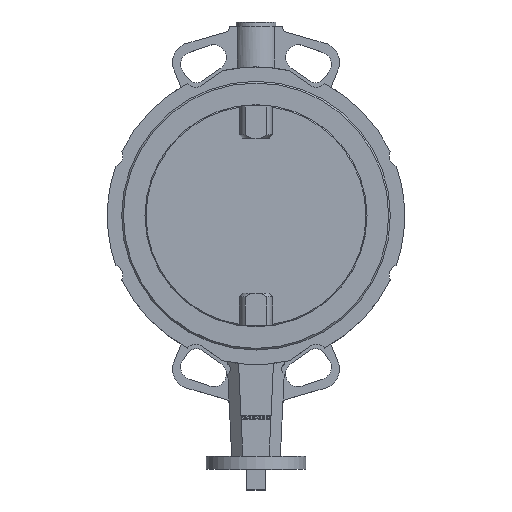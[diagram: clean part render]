
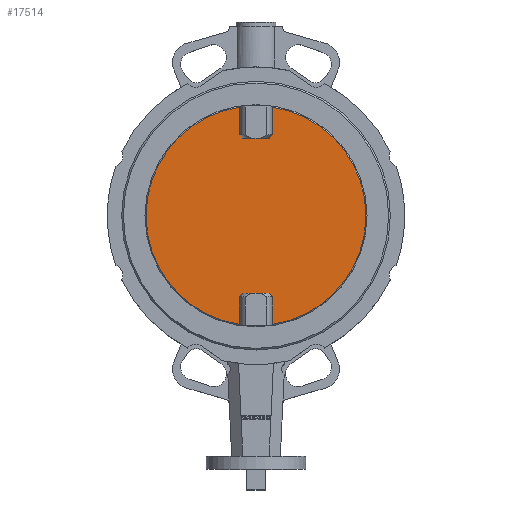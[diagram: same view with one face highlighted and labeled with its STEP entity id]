
A CAD part, top view. The second image highlights one B-rep face of the part: STEP entity #17514.
In plain terms, the highlighted planar face has unit normal (0, 0, 1).
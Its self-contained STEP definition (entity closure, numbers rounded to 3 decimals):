
#16469=CARTESIAN_POINT('',(99.0,0.,32.));
#16470=VERTEX_POINT('',#16469);
#16484=CARTESIAN_POINT('',(-99.0,0.,32.));
#16485=VERTEX_POINT('',#16484);
#16492=CARTESIAN_POINT('',(-14.866,97.877,32.));
#16493=VERTEX_POINT('',#16492);
#16494=CARTESIAN_POINT('',(0.0,0.0,32.0));
#16495=DIRECTION('',(0.0,0.0,-1.0));
#16496=DIRECTION('',(1.0,0.0,0.0));
#16497=AXIS2_PLACEMENT_3D('',#16494,#16495,#16496);
#16498=CIRCLE('',#16497,99.0);
#16499=EDGE_CURVE('',#16485,#16493,#16498,.T.);
#16521=CARTESIAN_POINT('',(14.866,97.877,32.));
#16522=VERTEX_POINT('',#16521);
#16532=CARTESIAN_POINT('',(0.0,0.0,32.0));
#16533=DIRECTION('',(0.0,0.0,-1.0));
#16534=DIRECTION('',(1.0,0.0,0.0));
#16535=AXIS2_PLACEMENT_3D('',#16532,#16533,#16534);
#16536=CIRCLE('',#16535,99.0);
#16537=EDGE_CURVE('',#16522,#16470,#16536,.T.);
#16832=CARTESIAN_POINT('',(-11.832,70.0,32.));
#16833=VERTEX_POINT('',#16832);
#16841=CARTESIAN_POINT('',(11.832,70.0,32.));
#16842=VERTEX_POINT('',#16841);
#16843=CARTESIAN_POINT('',(-11.832,70.0,32.));
#16844=DIRECTION('',(1.0,0.0,0.0));
#16845=VECTOR('',#16844,23.664);
#16846=LINE('',#16843,#16845);
#16847=EDGE_CURVE('',#16833,#16842,#16846,.T.);
#16865=CARTESIAN_POINT('',(-14.866,73.0,32.));
#16866=VERTEX_POINT('',#16865);
#16874=CARTESIAN_POINT('',(-14.866,73.0,32.));
#16875=CARTESIAN_POINT('',(-13.181,71.33,32.));
#16876=CARTESIAN_POINT('',(-11.832,70.0,32.));
#16884=(BOUNDED_CURVE()B_SPLINE_CURVE(2,(#16874,#16875,#16876),.UNSPECIFIED.,.F.,.U.)B_SPLINE_CURVE_WITH_KNOTS((3,3),(0.0,4.267),.UNSPECIFIED.)CURVE()GEOMETRIC_REPRESENTATION_ITEM()RATIONAL_B_SPLINE_CURVE((1.0,1.006,1.0))REPRESENTATION_ITEM(''));
#16885=EDGE_CURVE('',#16866,#16833,#16884,.T.);
#16905=CARTESIAN_POINT('',(-14.866,97.877,32.));
#16906=DIRECTION('',(0.0,-1.0,0.0));
#16907=VECTOR('',#16906,24.877);
#16908=LINE('',#16905,#16907);
#16909=EDGE_CURVE('',#16493,#16866,#16908,.T.);
#16921=CARTESIAN_POINT('',(11.832,-70.0,32.));
#16922=VERTEX_POINT('',#16921);
#16930=CARTESIAN_POINT('',(-11.832,-70.0,32.));
#16931=VERTEX_POINT('',#16930);
#16932=CARTESIAN_POINT('',(11.832,-70.0,32.));
#16933=DIRECTION('',(-1.0,0.0,0.0));
#16934=VECTOR('',#16933,23.664);
#16935=LINE('',#16932,#16934);
#16936=EDGE_CURVE('',#16922,#16931,#16935,.T.);
#16954=CARTESIAN_POINT('',(14.866,-73.0,32.));
#16955=VERTEX_POINT('',#16954);
#16963=CARTESIAN_POINT('',(14.866,-73.0,32.));
#16964=CARTESIAN_POINT('',(13.181,-71.33,32.));
#16965=CARTESIAN_POINT('',(11.832,-70.0,32.));
#16973=(BOUNDED_CURVE()B_SPLINE_CURVE(2,(#16963,#16964,#16965),.UNSPECIFIED.,.F.,.U.)B_SPLINE_CURVE_WITH_KNOTS((3,3),(0.0,4.267),.UNSPECIFIED.)CURVE()GEOMETRIC_REPRESENTATION_ITEM()RATIONAL_B_SPLINE_CURVE((1.0,1.006,1.0))REPRESENTATION_ITEM(''));
#16974=EDGE_CURVE('',#16955,#16922,#16973,.T.);
#17016=CARTESIAN_POINT('',(14.866,-97.877,32.));
#17017=VERTEX_POINT('',#17016);
#17027=CARTESIAN_POINT('',(14.866,-97.877,32.));
#17028=DIRECTION('',(0.0,1.0,0.0));
#17029=VECTOR('',#17028,24.877);
#17030=LINE('',#17027,#17029);
#17031=EDGE_CURVE('',#17017,#16955,#17030,.T.);
#17272=CARTESIAN_POINT('',(0.0,0.0,32.0));
#17273=DIRECTION('',(0.0,0.0,-1.0));
#17274=DIRECTION('',(1.0,0.0,0.0));
#17275=AXIS2_PLACEMENT_3D('',#17272,#17273,#17274);
#17276=CIRCLE('',#17275,99.0);
#17277=EDGE_CURVE('',#16470,#17017,#17276,.T.);
#17289=CARTESIAN_POINT('',(-14.866,-97.877,32.));
#17290=VERTEX_POINT('',#17289);
#17300=CARTESIAN_POINT('',(0.0,0.0,32.0));
#17301=DIRECTION('',(0.0,0.0,-1.0));
#17302=DIRECTION('',(1.0,0.0,0.0));
#17303=AXIS2_PLACEMENT_3D('',#17300,#17301,#17302);
#17304=CIRCLE('',#17303,99.0);
#17305=EDGE_CURVE('',#17290,#16485,#17304,.T.);
#17455=CARTESIAN_POINT('',(0.0,0.0,32.0));
#17456=DIRECTION('',(0.0,0.0,1.0));
#17457=DIRECTION('',(-1.0,0.0,0.0));
#17458=AXIS2_PLACEMENT_3D('',#17455,#17456,#17457);
#17459=PLANE('',#17458);
#17460=CARTESIAN_POINT('',(-14.866,-73.0,32.));
#17461=VERTEX_POINT('',#17460);
#17462=CARTESIAN_POINT('',(-14.866,-73.0,32.));
#17463=DIRECTION('',(0.0,-1.0,0.0));
#17464=VECTOR('',#17463,24.877);
#17465=LINE('',#17462,#17464);
#17466=EDGE_CURVE('',#17461,#17290,#17465,.T.);
#17467=ORIENTED_EDGE('',*,*,#17466,.F.);
#17468=CARTESIAN_POINT('',(-11.832,-70.0,32.));
#17469=CARTESIAN_POINT('',(-13.181,-71.33,32.));
#17470=CARTESIAN_POINT('',(-14.866,-73.0,32.));
#17478=(BOUNDED_CURVE()B_SPLINE_CURVE(2,(#17468,#17469,#17470),.UNSPECIFIED.,.F.,.U.)B_SPLINE_CURVE_WITH_KNOTS((3,3),(0.0,4.267),.UNSPECIFIED.)CURVE()GEOMETRIC_REPRESENTATION_ITEM()RATIONAL_B_SPLINE_CURVE((1.0,1.006,1.0))REPRESENTATION_ITEM(''));
#17479=EDGE_CURVE('',#16931,#17461,#17478,.T.);
#17480=ORIENTED_EDGE('',*,*,#17479,.F.);
#17481=ORIENTED_EDGE('',*,*,#16936,.F.);
#17482=ORIENTED_EDGE('',*,*,#16974,.F.);
#17483=ORIENTED_EDGE('',*,*,#17031,.F.);
#17484=ORIENTED_EDGE('',*,*,#17277,.F.);
#17485=ORIENTED_EDGE('',*,*,#16537,.F.);
#17486=CARTESIAN_POINT('',(14.866,73.0,32.));
#17487=VERTEX_POINT('',#17486);
#17488=CARTESIAN_POINT('',(14.866,73.0,32.));
#17489=DIRECTION('',(0.0,1.0,0.0));
#17490=VECTOR('',#17489,24.877);
#17491=LINE('',#17488,#17490);
#17492=EDGE_CURVE('',#17487,#16522,#17491,.T.);
#17493=ORIENTED_EDGE('',*,*,#17492,.F.);
#17494=CARTESIAN_POINT('',(11.832,70.0,32.));
#17495=CARTESIAN_POINT('',(13.181,71.33,32.));
#17496=CARTESIAN_POINT('',(14.866,73.0,32.));
#17504=(BOUNDED_CURVE()B_SPLINE_CURVE(2,(#17494,#17495,#17496),.UNSPECIFIED.,.F.,.U.)B_SPLINE_CURVE_WITH_KNOTS((3,3),(0.0,4.267),.UNSPECIFIED.)CURVE()GEOMETRIC_REPRESENTATION_ITEM()RATIONAL_B_SPLINE_CURVE((1.0,1.006,1.0))REPRESENTATION_ITEM(''));
#17505=EDGE_CURVE('',#16842,#17487,#17504,.T.);
#17506=ORIENTED_EDGE('',*,*,#17505,.F.);
#17507=ORIENTED_EDGE('',*,*,#16847,.F.);
#17508=ORIENTED_EDGE('',*,*,#16885,.F.);
#17509=ORIENTED_EDGE('',*,*,#16909,.F.);
#17510=ORIENTED_EDGE('',*,*,#16499,.F.);
#17511=ORIENTED_EDGE('',*,*,#17305,.F.);
#17512=EDGE_LOOP('',(#17467,#17480,#17481,#17482,#17483,#17484,#17485,#17493,#17506,#17507,#17508,#17509,#17510,#17511));
#17513=FACE_OUTER_BOUND('',#17512,.T.);
#17514=ADVANCED_FACE('',(#17513),#17459,.T.);
